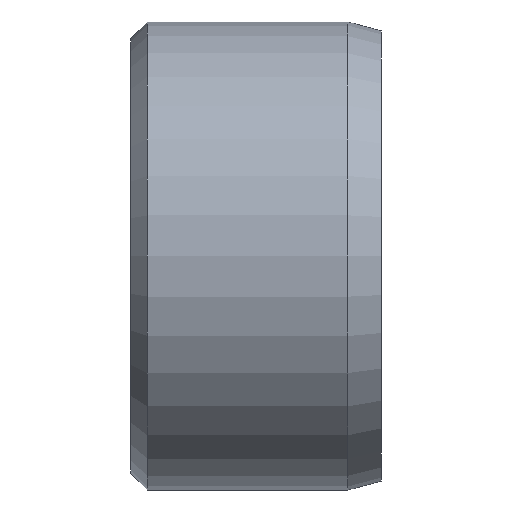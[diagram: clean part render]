
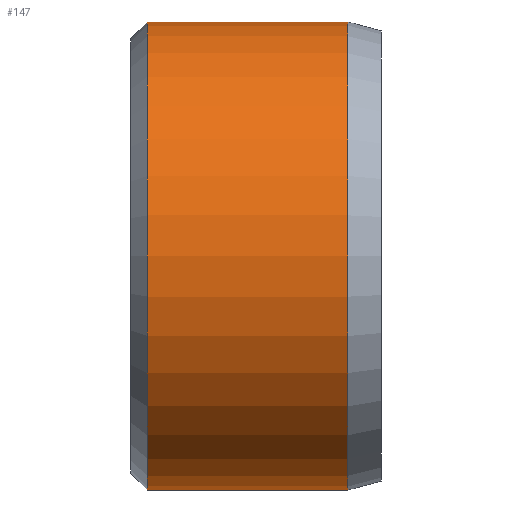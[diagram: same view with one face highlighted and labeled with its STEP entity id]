
A CAD part, front view. The second image highlights one B-rep face of the part: STEP entity #147.
In plain terms, the highlighted cylindrical face has radius 14 mm (diameter 28 mm), a full revolution.
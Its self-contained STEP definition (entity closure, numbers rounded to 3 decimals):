
#25=FACE_OUTER_BOUND('',#35,.T.);
#35=EDGE_LOOP('',(#105,#106,#107,#108));
#47=LINE('',#265,#53);
#53=VECTOR('',#210,14.);
#59=CIRCLE('',#181,14.);
#60=CIRCLE('',#182,14.);
#73=VERTEX_POINT('',#262);
#74=VERTEX_POINT('',#264);
#85=EDGE_CURVE('',#73,#73,#59,.T.);
#86=EDGE_CURVE('',#73,#74,#47,.T.);
#87=EDGE_CURVE('',#74,#74,#60,.T.);
#105=ORIENTED_EDGE('',*,*,#85,.F.);
#106=ORIENTED_EDGE('',*,*,#86,.T.);
#107=ORIENTED_EDGE('',*,*,#87,.T.);
#108=ORIENTED_EDGE('',*,*,#86,.F.);
#145=CYLINDRICAL_SURFACE('',#180,14.);
#147=ADVANCED_FACE('',(#25),#145,.T.);
#180=AXIS2_PLACEMENT_3D('',#261,#206,#207);
#181=AXIS2_PLACEMENT_3D('',#263,#208,#209);
#182=AXIS2_PLACEMENT_3D('',#266,#211,#212);
#206=DIRECTION('center_axis',(1.,0.,0.));
#207=DIRECTION('ref_axis',(0.,1.,0.));
#208=DIRECTION('center_axis',(1.,0.,0.));
#209=DIRECTION('ref_axis',(0.,0.,-1.));
#210=DIRECTION('',(-1.,0.,0.));
#211=DIRECTION('center_axis',(1.,0.,0.));
#212=DIRECTION('ref_axis',(0.,0.,-1.));
#261=CARTESIAN_POINT('Origin',(7.,0.,0.));
#262=CARTESIAN_POINT('',(13.,-14.,0.));
#263=CARTESIAN_POINT('Origin',(13.,0.,0.));
#264=CARTESIAN_POINT('',(1.,-14.,0.));
#265=CARTESIAN_POINT('',(7.,-14.,0.));
#266=CARTESIAN_POINT('Origin',(1.,0.,0.));
